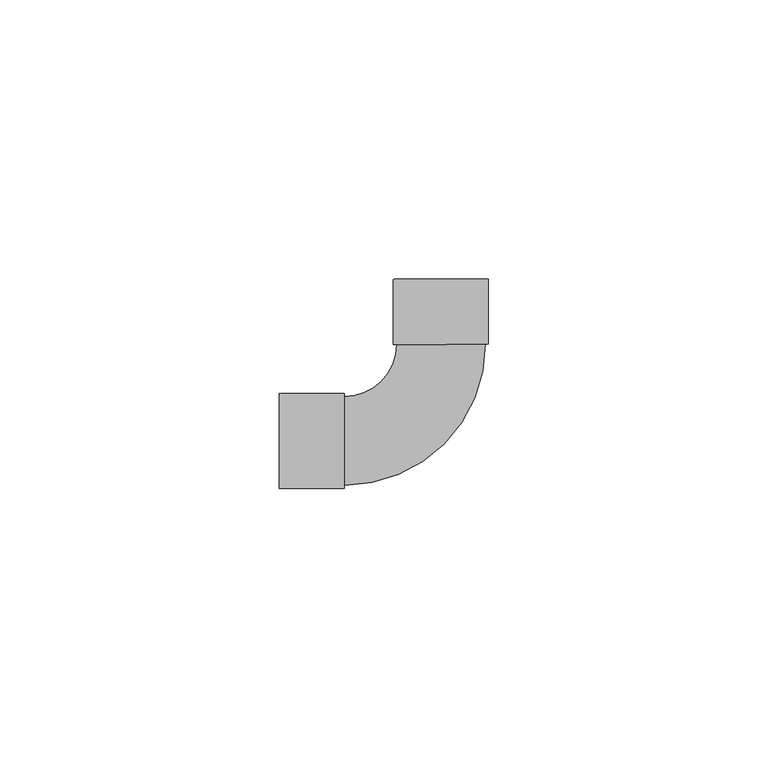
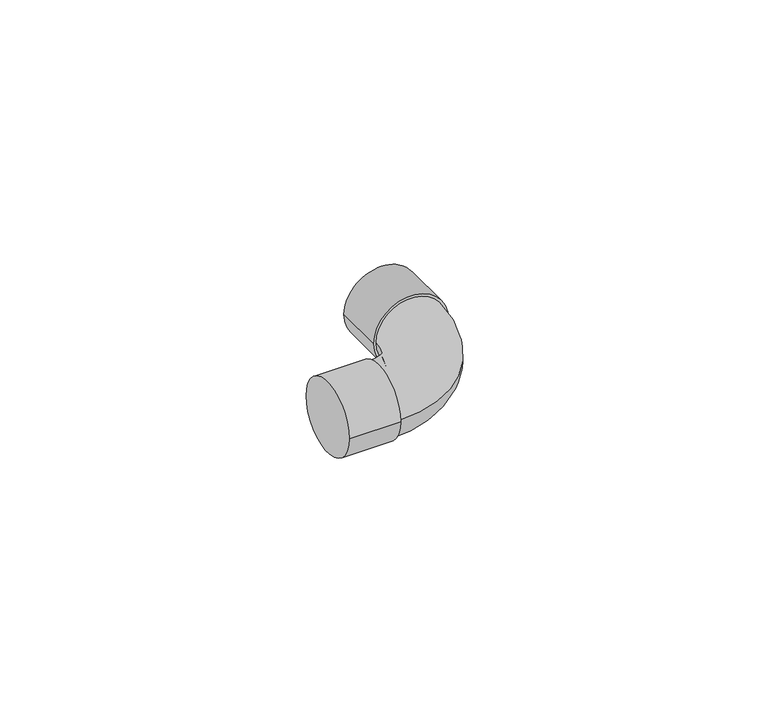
"""IFC4 building model written with IfcOpenShell, lengths in millimetres: pipe fitting geometry, Cotovelo - Soldado - CU : Padrão."""

from ifc_helpers import new_model, si_unit, point, frame, origin, place, context, project, spatial, circle_curve, ellipse_curve, trimmed, source, transform, mapped, element, save
from ifc_brep_helpers import plane_surface, cylinder_surface, revolved_surface, advanced_brep


def pipe_fitting_ac58fc96(model_context):
    return source(origin(), model_context, "Body", "AdvancedBrep", [
        advanced_brep(
        [(-7.9727584, 17.3023512, 0.0), (-17.3197, 7.935, 0.0), (-17.3197, -7.935, 0.0), (7.8972038, 17.3369664, 0.0), (-28.9786, -8.4937, 0.0), (-28.9786, 8.4937, 0.0), (-17.3197, -8.4937, 0.0), (-17.3197, 8.4937, 0.0), (-8.5568872, 28.9600048, 0.0), (8.4304724, 28.9970573, 0.0), (-8.5314571, 17.3011326, 0.0), (8.4559025, 17.338185, 0.0)],
        [
            (0, 1, circle_curve(frame((-17.3197, 17.2819638, 0.0), z_axis=(0.0, 0.0, -1.0), x_axis=(0.0, -1.0, 0.0)), 9.3469638)),
            (1, 2, circle_curve(frame((-17.3197, 0.0, 0.0), z_axis=(1.0, 0.0, 0.0), x_axis=(0.0, 1.0, 0.0)), 7.935)),
            (2, 3, circle_curve(frame((-17.3197, 17.2819638, 0.0), z_axis=(0.0, 0.0, 1.0), x_axis=(0.0, -1.0, 0.0)), 25.2169638)),
            (3, 0, circle_curve(frame((-0.0377773, 17.3196588, 0.0), z_axis=(0.0021811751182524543, -0.9999976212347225, 0.0), x_axis=(-0.9999976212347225, -0.0021811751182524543, 0.0)), 7.935)),
            (0, 3, circle_curve(frame((-0.0377773, 17.3196588, 0.0), z_axis=(0.0021811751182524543, -0.9999976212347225, 0.0), x_axis=(-0.9999976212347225, -0.0021811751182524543, 0.0)), 7.935)),
            (2, 1, circle_curve(frame((-17.3197, 0.0, 0.0), z_axis=(1.0, 0.0, 0.0), x_axis=(0.0, 1.0, 0.0)), 7.935)),
            (4, 5, circle_curve(frame((-28.9786, 0.0, 0.0), z_axis=(-1.0, 0.0, 0.0), x_axis=(0.0, 1.0, 0.0)), 8.4937)),
            (5, 4, circle_curve(frame((-28.9786, 0.0, 0.0), z_axis=(-1.0, 0.0, 0.0), x_axis=(0.0, 1.0, 0.0)), 8.4937)),
            (6, 7, circle_curve(frame((-17.3197, 0.0, 0.0), z_axis=(1.0, 0.0, 0.0), x_axis=(0.0, 1.0, 0.0)), 8.4937)),
            (7, 6, circle_curve(frame((-17.3197, 0.0, 0.0), z_axis=(1.0, 0.0, 0.0), x_axis=(0.0, 1.0, 0.0)), 8.4937)),
            (4, 6),
            (7, 5),
            (8, 9, circle_curve(frame((-0.0632074, 28.9785311, 0.0), z_axis=(-0.00218117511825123, 0.9999976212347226, 0.0), x_axis=(0.9999976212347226, 0.00218117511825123, 0.0)), 8.4937)),
            (9, 8, circle_curve(frame((-0.0632074, 28.9785311, 0.0), z_axis=(-0.00218117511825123, 0.9999976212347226, 0.0), x_axis=(0.9999976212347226, 0.00218117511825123, 0.0)), 8.4937)),
            (10, 11, circle_curve(frame((-0.0377773, 17.3196588, 0.0), z_axis=(0.00218117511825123, -0.9999976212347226, 0.0), x_axis=(0.9999976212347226, 0.00218117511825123, 0.0)), 8.4937)),
            (11, 10, circle_curve(frame((-0.0377773, 17.3196588, 0.0), z_axis=(0.00218117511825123, -0.9999976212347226, 0.0), x_axis=(0.9999976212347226, 0.00218117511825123, 0.0)), 8.4937)),
            (8, 10),
            (11, 9),
        ],
        [
            revolved_surface(trimmed(ellipse_curve(frame((-17.3197, 0.0, 0.0), z_axis=(-1.0, 0.0, 0.0), x_axis=(0.0, 1.0, 0.0)), 7.935, 7.935), [point((-17.3197, -7.935, 0.0))], [point((-17.3197, 7.935, 0.0))], True, "CARTESIAN"), (-17.3197, 17.2819638, 0.0), (0.0, 0.0, 1.0)),
            revolved_surface(trimmed(ellipse_curve(frame((-17.3197, 0.0, 0.0), z_axis=(-1.0, 0.0, 0.0), x_axis=(0.0, 1.0, 0.0)), 7.935, 7.935), [point((-17.3197, 7.935, 0.0))], [point((-17.3197, -7.935, 0.0))], True, "CARTESIAN"), (-17.3197, 17.2819638, 0.0), (0.0, 0.0, 1.0)),
            plane_surface(frame((-28.9786, 0.0, 0.0), z_axis=(-1.0, 0.0, 0.0), x_axis=(0.0, 0.0, 1.0))),
            plane_surface(frame((-17.3197, 0.0, 0.0), z_axis=(1.0, 0.0, 0.0), x_axis=(0.0, 0.0, 1.0))),
            cylinder_surface(frame((-28.9786, 0.0, 0.0), z_axis=(-1.0, 0.0, 0.0), x_axis=(0.0, 1.0, 0.0)), 8.4937),
            plane_surface(frame((-0.0632074, 28.9785311, 0.0), z_axis=(-0.00218117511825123, 0.9999976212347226, 0.0), x_axis=(0.0, 0.0, 1.0))),
            plane_surface(frame((-0.0377773, 17.3196588, 0.0), z_axis=(0.00218117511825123, -0.9999976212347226, 0.0), x_axis=(0.0, 0.0, 1.0))),
            cylinder_surface(frame((-0.0632074, 28.9785311, 0.0), z_axis=(-0.00218117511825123, 0.9999976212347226, 0.0), x_axis=(0.9999976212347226, 0.00218117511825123, 0.0)), 8.4937),
        ],
        [
            (0, [[1, 2, 3, 4]]),
            (1, [[-1, 5, -3, 6]]),
            (2, [[7, 8]]),
            (3, [[9, 10], [-2, -6]]),
            (4, [[-7, 11, -10, 12]]),
            (4, [[-8, -12, -9, -11]]),
            (5, [[13, 14]]),
            (6, [[15, 16], [-4, -5]]),
            (7, [[-13, 17, -16, 18]]),
            (7, [[-14, -18, -15, -17]]),
        ],
    ),
    ])


if __name__ == "__main__":
    model = new_model("IFC4")
    model_context = context("Model", 3, world=origin())
    ifc_project = project(units=[si_unit("LENGTHUNIT", "METRE", prefix="MILLI")], contexts=[model_context])
    site = spatial("IfcSite", under=ifc_project)
    building = spatial("IfcBuilding", under=site)
    placement = place(None, origin())
    pipe_fitting_shape = pipe_fitting_ac58fc96(model_context)
    element("IfcPipeFitting", 1, ObjectType="Cotovelo - Soldado - CU : Padrão", at=placement, inside=building, context=model_context, shape_type="MappedRepresentation", body=[
        mapped(pipe_fitting_shape, transform((0.0, 0.0, 0.0), x_axis=(1.0, 0.0, 0.0), y_axis=(0.0, 1.0, 0.0), z_axis=(0.0, 0.0, 1.0))),
    ])
    save(model, "model.ifc")
